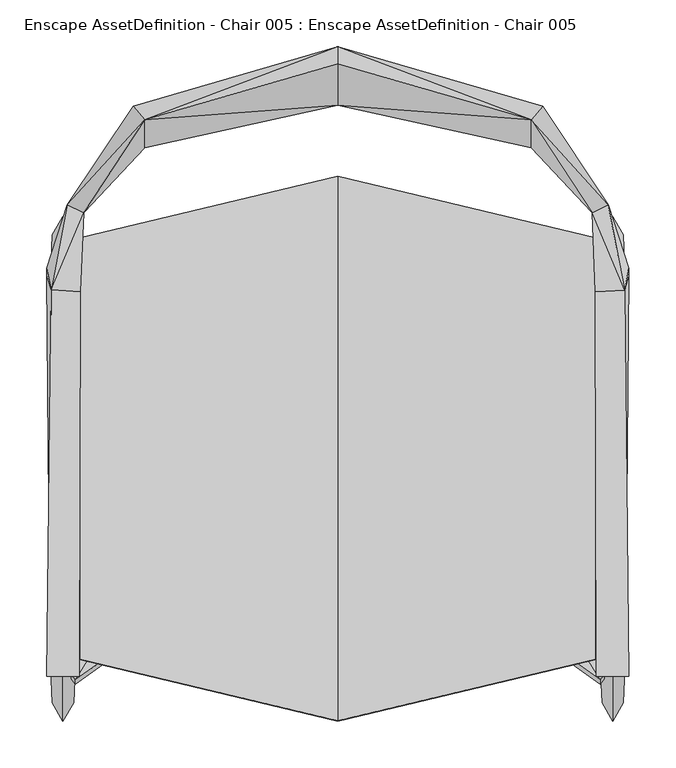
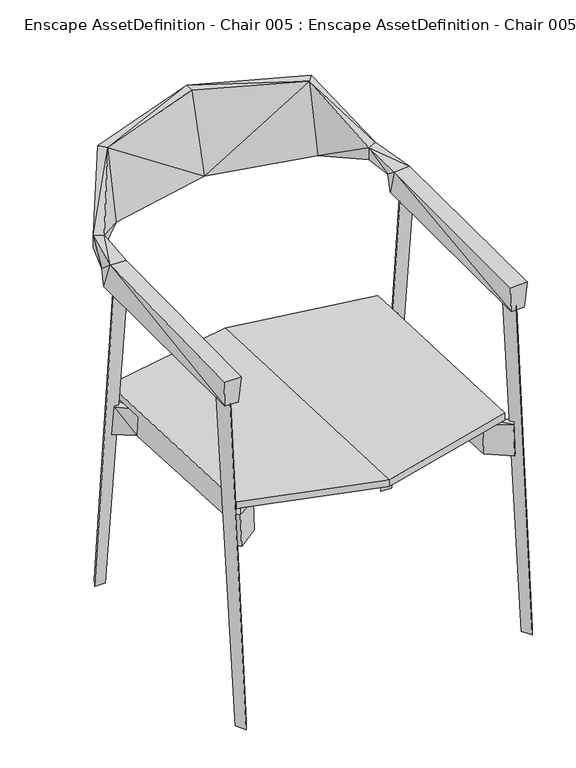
"""IFC4 building model written with IfcOpenShell, lengths in millimetres: geographic element geometry, Enscape AssetDefinition - Chair 005 : Enscape AssetDefinition - Chair 005."""

from ifc_helpers import new_model, si_unit, origin, place, context, project, spatial, triangles, source, transform, mapped, element, save


def enscape_assetdefinition_chair_005_enscape_assetdefinition_31156a69(model_context):
    return source(origin(), model_context, "Body", "Tessellation", [
        triangles([(305.7359894, -274.8019946, 0.138), (294.4769928, -237.7349984, 678.7809517), (280.2700111, -213.1000013, 678.985009), (-308.6839926, -213.1000013, 678.985009), (-305.7359894, -274.8019946, 0.138), (-280.2700111, -213.1000013, 678.985009), (308.6839926, -213.1000013, 678.985009), (283.2179961, -274.8019946, 0.138), (294.4769928, -294.3719846, -0.014), (-283.2179961, -274.8019946, 0.138), (-294.4769928, -237.7349984, 678.7809517), (-294.4769928, -294.3719846, -0.014), (294.4769928, 246.2770097, -0.014), (283.2179961, 226.7070014, 0.138), (280.2700111, 154.1160108, 678.6199877), (308.6839926, 154.1160108, 678.6199877), (294.4769928, 178.6009988, 681.3480188), (-280.2700111, 154.1160108, 678.6199877), (-305.7359894, 226.7070014, 0.138), (-283.2179961, 226.7070014, 0.138), (-294.4769928, 178.6009988, 681.3480188), (-308.6839926, 154.1160108, 678.6199877), (305.7359894, 226.7070014, 0.138), (-294.4769928, 246.2770097, -0.014), (236.1120051, -222.6839912, 371.0039895), (236.0279986, 167.6850045, 410.1319791), (236.1120051, 172.975997, 350.3229844), (281.0809899, -255.1440012, 371.0039895), (281.1639972, 196.8659995, 415.4179936), (255.430012, 157.4270006, 409.0969769), (255.5150177, 162.7189922, 349.2879822), (281.0809899, 204.3909944, 350.3229844), (291.9340157, 188.3960042, 348.6819872), (292.0170048, 180.8699919, 413.7769964), (236.0289979, -217.9590071, 430.9389939), (255.4289947, -208.0569952, 430.1949986), (292.4250104, -239.4530076, 369.7959964), (255.5130193, -212.7819975, 370.2589768), (292.509998, -234.5439867, 435.0439759), (281.1649964, -250.2349985, 436.2510243), (-281.0809899, -255.1440012, 371.0039895), (-236.1120051, -222.6839912, 371.0039895), (-281.1639972, 196.8659995, 415.4179936), (-236.0279986, 167.6850045, 410.1319791), (-236.0289979, -217.9590071, 430.9389939), (-236.1120051, 172.975997, 350.3229844), (-281.0809899, 204.3909944, 350.3229844), (-291.9340157, 188.3960042, 348.6819872), (-292.0170048, 180.8699919, 413.7769964), (-255.4289947, -208.0569952, 430.1949986), (-255.430012, 157.4270006, 409.0969769), (-255.5130193, -212.7819975, 370.2589768), (-292.4250104, -239.4530076, 369.7959964), (-281.1649964, -250.2349985, 436.2510243), (-292.509998, -234.5439867, 435.0439759), (-255.5150177, 162.7189922, 349.2879822), (277.0180112, -246.3040066, 732.7280222), (280.7329916, -242.3120082, 677.6069681), (308.2210121, -242.3149877, 677.6069681), (307.3019912, 167.4580017, 735.6819843), (311.9349933, -246.3080034, 732.7280222), (276.0860005, 165.428002, 735.6819843), (311.9759791, 182.0540039, 681.6679848), (277.0599963, 182.0560023, 681.6679848), (277.0599963, 190.6629988, 715.4430307), (272.5119817, 250.077995, 738.6379812), (272.4849848, 250.1240132, 712.658971), (311.9759791, 190.6590019, 715.4430307), (290.0510093, 258.8680108, 712.658971), (219.4799898, 334.1019905, 701.7860155), (290.0780062, 258.8219925, 738.6379812), (219.5249907, 364.309994, 845.8290401), (207.0750057, 319.7300117, 701.7860155), (-219.4420016, 364.359991, 845.8290401), (0.044, 383.4980307, 702.2179659), (0.049, 428.2839961, 862.1380011), (0.042, 365.4069838, 702.2179659), (207.1190074, 349.9380152, 845.8290401), (0.047, 410.1929855, 862.1380011), (-219.4039952, 334.1520238, 701.7860155), (-290.0189981, 258.8880132, 738.6379812), (-289.9920012, 258.9339951, 712.6579536), (-272.4550085, 250.1400188, 738.6379812), (-207.039997, 349.9849963, 845.8290401), (-272.4280116, 250.1860007, 712.6579536), (-311.9329948, 190.7300005, 715.4430307), (-311.9359743, 182.1250025, 681.6669674), (-277.0169938, 190.7260036, 715.4430307), (-277.0200096, 182.118989, 681.6669674), (-276.0489933, 165.4910069, 735.6819843), (-207.0019906, 319.7770291, 701.7860155), (-280.7869853, -242.2480042, 677.6069681), (-311.9900044, -246.2369867, 732.7280222), (-277.0730042, -246.2410017, 732.7280222), (-308.2750059, -242.2450065, 677.6069681), (-307.2639848, 167.528001, 735.6819843), (0.0, 289.0950175, 402.8770077), (-275.7459958, 223.1010079, 417.0279971), (0.0, -294.6009859, 426.4649938), (0.0, -294.0339965, 440.5079956), (275.7459958, 223.6690146, 431.0700179), (0.0, 289.6629879, 416.9200095), (275.7459958, -228.6069945, 435.2820065), (275.7459958, 223.1010079, 417.0279971), (-275.7459958, -228.0399869, 449.3240273), (-275.7459958, -228.6069945, 435.2820065), (275.7459958, -228.0399869, 449.3240273), (-275.7459958, 223.6690146, 431.0700179)], [[105, 108, 98], [101, 107, 103], [98, 108, 102], [102, 101, 104], [100, 105, 106], [103, 107, 100], [108, 105, 100], [100, 107, 101], [98, 97, 99], [104, 103, 99], [105, 98, 106], [101, 103, 104], [98, 102, 97], [102, 104, 97], [100, 106, 99], [103, 100, 99], [108, 100, 102], [100, 101, 102], [98, 99, 106], [104, 99, 97], [95, 87, 89], [87, 95, 96], [95, 89, 92], [92, 94, 93], [95, 93, 96], [92, 93, 95], [92, 89, 90], [94, 92, 90], [93, 94, 90], [93, 90, 96], [77, 79, 84], [78, 79, 77], [77, 84, 91], [96, 90, 83], [83, 91, 84], [89, 88, 90], [88, 83, 90], [96, 86, 87], [86, 88, 89], [86, 89, 87], [83, 85, 91], [88, 85, 83], [86, 85, 88], [86, 82, 85], [81, 83, 84], [86, 96, 81], [96, 83, 81], [86, 81, 82], [85, 82, 80], [85, 80, 91], [81, 80, 82], [81, 74, 80], [81, 84, 74], [84, 79, 76], [84, 76, 74], [78, 76, 79], [78, 72, 76], [74, 76, 75], [75, 77, 91], [75, 76, 72], [74, 75, 80], [75, 91, 80], [73, 77, 75], [78, 77, 73], [75, 72, 70], [73, 75, 70], [71, 72, 78], [70, 72, 71], [70, 71, 69], [68, 69, 71], [67, 73, 70], [67, 69, 68], [67, 70, 69], [66, 78, 73], [66, 73, 67], [71, 78, 66], [66, 67, 65], [67, 68, 65], [68, 63, 64], [68, 64, 65], [59, 64, 63], [60, 71, 66], [63, 68, 60], [60, 59, 63], [68, 71, 60], [60, 66, 62], [62, 65, 64], [66, 65, 62], [59, 58, 64], [64, 58, 62], [58, 57, 62], [60, 61, 59], [61, 57, 58], [61, 60, 62], [61, 58, 59], [61, 62, 57], [56, 48, 47], [56, 49, 48], [45, 54, 41], [41, 54, 55], [41, 55, 53], [50, 55, 54], [50, 54, 45], [50, 53, 55], [41, 53, 52], [50, 52, 53], [51, 50, 45], [56, 51, 49], [52, 50, 51], [52, 51, 56], [48, 49, 43], [43, 49, 51], [48, 43, 47], [46, 47, 43], [56, 47, 46], [51, 45, 44], [43, 51, 44], [46, 43, 44], [42, 52, 56], [42, 46, 44], [41, 52, 42], [42, 56, 46], [45, 41, 42], [42, 44, 45], [28, 38, 37], [28, 37, 39], [28, 39, 40], [40, 39, 36], [36, 39, 37], [36, 37, 38], [40, 36, 35], [35, 28, 40], [35, 36, 30], [38, 30, 36], [38, 31, 30], [31, 34, 30], [31, 33, 34], [32, 33, 31], [29, 34, 33], [29, 33, 32], [29, 30, 34], [32, 31, 27], [27, 29, 32], [29, 26, 30], [27, 26, 29], [35, 30, 26], [28, 25, 38], [25, 27, 31], [35, 25, 28], [25, 35, 26], [25, 31, 38], [25, 26, 27], [20, 24, 21], [21, 24, 19], [18, 22, 19], [17, 13, 14], [17, 16, 23], [14, 23, 16], [22, 18, 21], [20, 21, 18], [21, 19, 22], [18, 19, 20], [20, 19, 24], [16, 17, 15], [17, 14, 15], [17, 23, 13], [14, 16, 15], [14, 13, 23], [11, 12, 10], [5, 12, 11], [4, 6, 10], [8, 9, 2], [1, 7, 2], [8, 3, 7], [4, 11, 6], [11, 10, 6], [5, 11, 4], [4, 10, 5], [10, 12, 5], [7, 3, 2], [8, 2, 3], [1, 2, 9], [8, 7, 1], [8, 1, 9]]),
    ])


if __name__ == "__main__":
    model = new_model("IFC4")
    model_context = context("Model", 3, world=origin())
    ifc_project = project(units=[si_unit("LENGTHUNIT", "METRE", prefix="MILLI")], contexts=[model_context])
    site = spatial("IfcSite", under=ifc_project)
    building = spatial("IfcBuilding", under=site)
    placement = place(None, origin())
    enscape_assetdefinition_chair_005_enscape_assetdefinition_shape = enscape_assetdefinition_chair_005_enscape_assetdefinition_31156a69(model_context)
    element("IfcGeographicElement", 1, ObjectType="Enscape AssetDefinition - Chair 005 : Enscape AssetDefinition - Chair 005", at=placement, inside=building, context=model_context, shape_type="MappedRepresentation", body=[
        mapped(enscape_assetdefinition_chair_005_enscape_assetdefinition_shape, transform((0.0, 0.0, 0.0), x_axis=(1.0, 0.0, 0.0), y_axis=(0.0, 1.0, 0.0), z_axis=(0.0, 0.0, 1.0))),
    ])
    save(model, "model.ifc")
